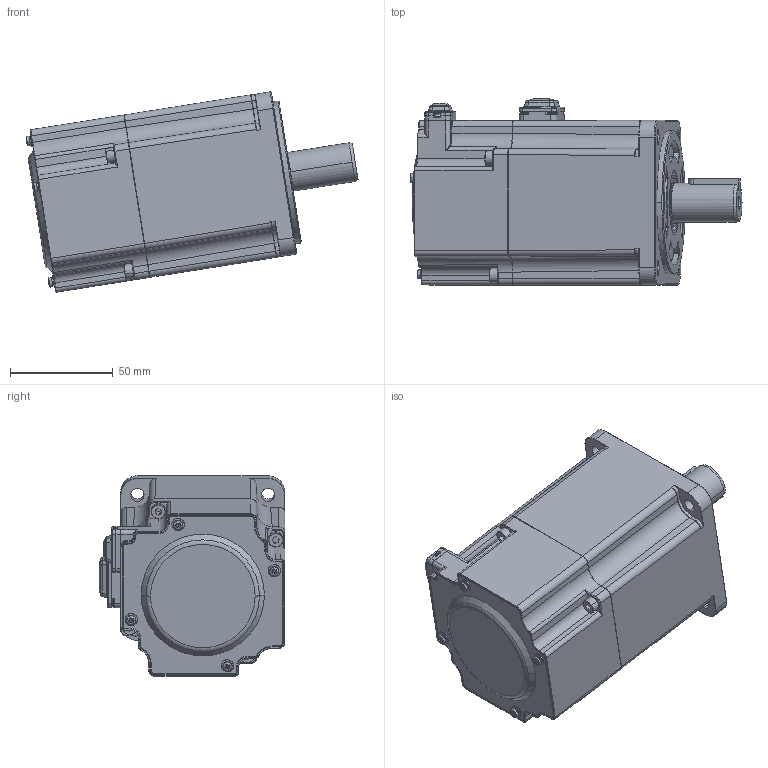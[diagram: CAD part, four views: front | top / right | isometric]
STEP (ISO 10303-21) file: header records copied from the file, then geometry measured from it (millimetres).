
FILE_DESCRIPTION (( 'STEP AP214' ), '1' );
FILE_NAME ('750W刹车直插电机.STEP', '2024-10-13T07:44:52', ( 'Windows 用户' ), ( 'Organization' ), 'SwSTEP 2.0', 'SolidWorks 2021', '' );
FILE_SCHEMA (( 'AUTOMOTIVE_DESIGN' ));
Length unit declared in the file: millimetre
Products named in the file (1): 750W价陬眻脣萇儂
Bounding box: 161.54 x 90.5 x 97.49 mm (x, y, z)
Surface area: 58567.2 mm2 (no closed solid volume)
Topology: 0 solids, 40 shells, 819 faces, 2436 edges, 1594 vertices
Faces by surface type: plane 313, cylinder 281, cone 87, torus 73, bspline 56, sphere 9
Entity records: 40968 total; most frequent: CARTESIAN_POINT 10487, DIRECTION 4669, ORIENTED_EDGE 4087, EDGE_CURVE 2429, AXIS2_PLACEMENT_3D 1802, VERTEX_POINT 1593, LINE 1065, VECTOR 1065
